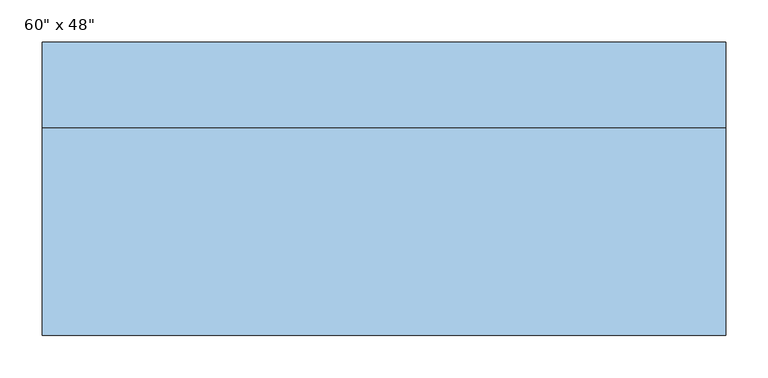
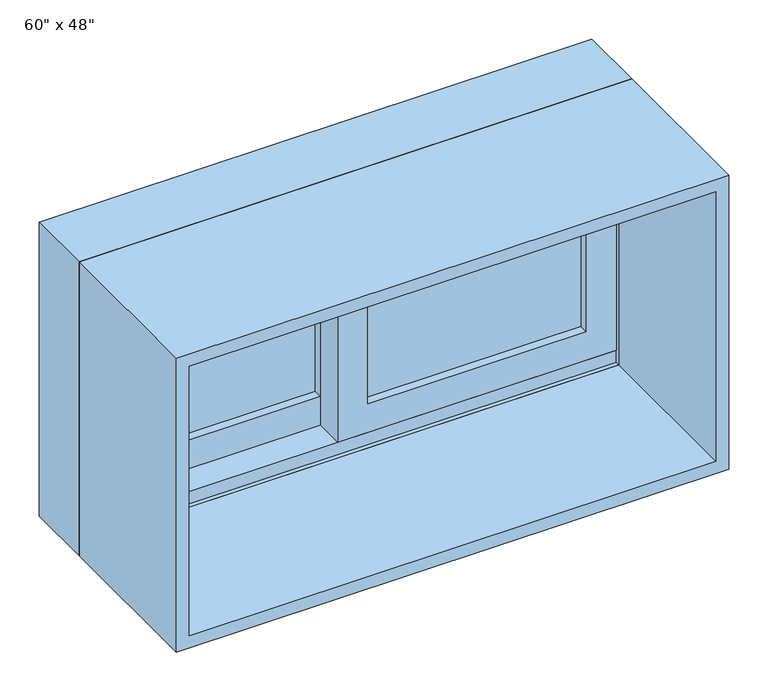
"""IFC4 building model written with IfcOpenShell, lengths in millimetres: window geometry."""

import ifcopenshell
import ifcopenshell.guid

model = None  # the IFC model being written
_history = None  # IfcOwnerHistory: only IFC2X3 demands one
_inside = {}  # id of a spatial element -> (the spatial element, [elements in it])
_under = {}  # id of a project, library or spatial element -> (it, [spatial elements below it])
_declared = {}  # id of a project -> (the project, [libraries it declares])
_typed = {}  # id of a type object -> (the type object, [elements of that type])
_made_of = {}  # id of a material, layer set ... -> (it, [elements and type objects made of it])


def new_model(schema):
    """Start an empty IFC model of exactly this schema.

    Asked for "IFC4X3", IfcOpenShell would pick the latest addendum, in which some entities
    have other attributes; the version numbers below select the first issue.
    IFC2X3 requires an IfcOwnerHistory on every rooted entity: one is made here for all.
    """
    global model, _history
    if schema == "IFC4X3":
        model = ifcopenshell.file(schema_version=(4, 3, 0, 0))
    else:
        model = ifcopenshell.file(schema=schema)
    _inside.clear()
    _under.clear()
    _declared.clear()
    _typed.clear()
    _made_of.clear()
    _history = None
    if model.schema == "IFC2X3":
        org = make("IfcOrganization", Name="unknown")
        user = make(
            "IfcPersonAndOrganization",
            ThePerson=make("IfcPerson", FamilyName="unknown"),
            TheOrganization=org,
        )
        app = make(
            "IfcApplication",
            ApplicationDeveloper=org,
            Version="unknown",
            ApplicationFullName="unknown",
            ApplicationIdentifier="unknown",
        )
        _history = make(
            "IfcOwnerHistory",
            OwningUser=user,
            OwningApplication=app,
            ChangeAction="ADDED",
            CreationDate=0,
        )
    return model


def make(cls, **values):
    """One entity of the class cls with the attributes given. An attribute that is None is left unset."""
    return model.create_entity(
        cls, **{name: value for name, value in values.items() if value is not None}
    )


def rooted(cls, **values):
    """An entity with a GlobalId (a new one), such as an element, a storey or a relation."""
    return make(cls, GlobalId=ifcopenshell.guid.new(), OwnerHistory=_history, **values)


def si_unit(unit_type, name, prefix=None):
    """IfcSIUnit, for example si_unit("LENGTHUNIT", "METRE", prefix="MILLI")."""
    return make("IfcSIUnit", UnitType=unit_type, Prefix=prefix, Name=name)


def assignment(units):
    """IfcUnitAssignment: the units of a project."""
    return None if units is None else make("IfcUnitAssignment", Units=units)


def point(xyz):
    """IfcCartesianPoint."""
    return None if xyz is None else make("IfcCartesianPoint", Coordinates=xyz)


def direction(xyz):
    """IfcDirection."""
    return None if xyz is None else make("IfcDirection", DirectionRatios=xyz)


def frame(location, z_axis=None, x_axis=None):
    """IfcAxis2Placement3D, a coordinate frame: its origin and axes. An axis left out is left unset."""
    return make(
        "IfcAxis2Placement3D",
        Location=point(location),
        Axis=direction(z_axis),
        RefDirection=direction(x_axis),
    )


def origin():
    """The frame at (0, 0, 0) with its axes left unset."""
    return frame((0.0, 0.0, 0.0))


def place(relative_to, where):
    """IfcLocalPlacement: puts the frame where relative to a parent placement (None: the world)."""
    return make(
        "IfcLocalPlacement", PlacementRelTo=relative_to, RelativePlacement=where
    )


def context(
    kind, dimensions, precision=None, world=None, true_north=None, identifier=None
):
    """IfcGeometricRepresentationContext, for example the 3D "Model" context."""
    return make(
        "IfcGeometricRepresentationContext",
        ContextIdentifier=identifier,
        ContextType=kind,
        CoordinateSpaceDimension=dimensions,
        Precision=precision,
        WorldCoordinateSystem=world,
        TrueNorth=true_north,
    )


def project(units=None, contexts=None):
    """IfcProject with its units and contexts."""
    return rooted(
        "IfcProject",
        Name="project",
        RepresentationContexts=contexts,
        UnitsInContext=assignment(units),
    )


def spatial(cls, under=None, at=None, **own):
    """A site, building, storey or space (cls), placed at a placement, below another one or the project."""
    s = rooted(cls, ObjectPlacement=at, **own)
    if under is not None:
        _under.setdefault(under.id(), (under, []))[1].append(s)
    return s


def polyline(points):
    """IfcPolyline through the points."""
    return make("IfcPolyline", Points=[point(p) for p in points])


def outline(outer, holes=None, kind="AREA"):
    """IfcArbitraryClosedProfileDef: a profile drawn as a closed curve; with holes, ...WithVoids."""
    if holes is None:
        return make("IfcArbitraryClosedProfileDef", ProfileType=kind, OuterCurve=outer)
    return make(
        "IfcArbitraryProfileDefWithVoids",
        ProfileType=kind,
        OuterCurve=outer,
        InnerCurves=holes,
    )


def extrude(swept, where, along, depth):
    """IfcExtrudedAreaSolid: the profile swept, set in the frame where, extruded along a direction by depth."""
    return make(
        "IfcExtrudedAreaSolid",
        SweptArea=swept,
        Position=where,
        ExtrudedDirection=direction(along),
        Depth=depth,
    )


def faces_of(points, faces, orient=None, outer=None):
    """IfcFace entities. A face is a list of loops; a loop is a list of indices into points, from 0.

    orient and outer hold one flag for each loop. By default every Orientation is true, the
    first loop of a face is its IfcFaceOuterBound and the others are IfcFaceBound.
    """
    made = []
    for i, loops in enumerate(faces):
        bounds = []
        for j, loop in enumerate(loops):
            is_outer = j == 0 if outer is None else outer[i][j]
            bounds.append(
                make(
                    "IfcFaceOuterBound" if is_outer else "IfcFaceBound",
                    Bound=make("IfcPolyLoop", Polygon=[points[k] for k in loop]),
                    Orientation=True if orient is None else orient[i][j],
                )
            )
        made.append(make("IfcFace", Bounds=bounds))
    return made


def faceted_brep(points, faces, orient=None, outer=None, voids=None):
    """IfcFacetedBrep: a solid bounded by flat faces; with voids (closed shells), ...WithVoids."""
    shared = [point(p) for p in points]
    hull = make("IfcClosedShell", CfsFaces=faces_of(shared, faces, orient, outer))
    if voids is None:
        return make("IfcFacetedBrep", Outer=hull)
    return make(
        "IfcFacetedBrepWithVoids",
        Outer=hull,
        Voids=[
            make(cls, CfsFaces=faces_of(shared, fs, o, b)) for cls, fs, o, b in voids
        ],
    )


def shape(context_of_items, identifier, shape_type, items):
    """IfcShapeRepresentation: the items that make up one representation, for example the "Body"."""
    return make(
        "IfcShapeRepresentation",
        ContextOfItems=context_of_items,
        RepresentationIdentifier=identifier,
        RepresentationType=shape_type,
        Items=items,
    )


def source(mapping_origin, context_of_items, identifier, shape_type, items):
    """IfcRepresentationMap: a shape defined once, which mapped items show again and again."""
    return make(
        "IfcRepresentationMap",
        MappingOrigin=mapping_origin,
        MappedRepresentation=shape(context_of_items, identifier, shape_type, items),
    )


def transform(
    local_origin,
    x_axis=None,
    y_axis=None,
    z_axis=None,
    scale=None,
    scale2=None,
    scale3=None,
    uniform=True,
):
    """IfcCartesianTransformationOperator3D, or its non-uniform kind. x_axis, y_axis, z_axis: its Axis1, 2, 3."""
    if uniform:
        return make(
            "IfcCartesianTransformationOperator3D",
            Axis1=direction(x_axis),
            Axis2=direction(y_axis),
            LocalOrigin=point(local_origin),
            Scale=scale,
            Axis3=direction(z_axis),
        )
    return make(
        "IfcCartesianTransformationOperator3DnonUniform",
        Axis1=direction(x_axis),
        Axis2=direction(y_axis),
        LocalOrigin=point(local_origin),
        Scale=scale,
        Axis3=direction(z_axis),
        Scale2=scale2,
        Scale3=scale3,
    )


def mapped(mapping_source, mapping_target):
    """IfcMappedItem: shows the shape of a source again, moved by a transform."""
    return make(
        "IfcMappedItem", MappingSource=mapping_source, MappingTarget=mapping_target
    )


def made_of(thing, what):
    """Note that an element or type object is made of a material, layer set ...; save() writes the relation."""
    if what is not None:
        _made_of.setdefault(what.id(), (what, []))[1].append(thing)
    return thing


def element(
    cls,
    number,
    at=None,
    inside=None,
    cuts=None,
    type_object=None,
    material=None,
    context=None,
    identifier="Body",
    shape_type=None,
    held_by="IfcProductDefinitionShape",
    body=None,
    shapes=None,
    **own,
):
    """One element of the class cls, such as IfcWall. Its Tag is "e" and its number.

    at: its placement. inside: the storey or other place that contains it. cuts: it is an
    opening in that element (IfcRelVoidsElement). A single representation is given by context,
    identifier, shape_type and body (its items); several are given by shapes. held_by: the class
    of the entity that holds the representations. save() writes the other relations.
    """
    e = rooted(cls, Tag="e%d" % number, ObjectPlacement=at, **own)
    if body is not None:
        shapes = [shape(context, identifier, shape_type, body)]
    if shapes is not None:
        e.Representation = make(held_by, Representations=shapes)
    if inside is not None:
        _inside.setdefault(inside.id(), (inside, []))[1].append(e)
    if cuts is not None:
        rooted(
            "IfcRelVoidsElement", RelatingBuildingElement=cuts, RelatedOpeningElement=e
        )
    if type_object is not None:
        _typed.setdefault(type_object.id(), (type_object, []))[1].append(e)
    return made_of(e, material)


def aggregate(whole, parts):
    """IfcRelAggregates: a whole, such as a stair, and the parts it consists of."""
    return rooted("IfcRelAggregates", RelatingObject=whole, RelatedObjects=parts)


def save(model, path):
    """Write the relations noted so far, then the file.

    IfcRelAggregates (storeys below a building ...), IfcRelContainedInSpatialStructure (elements
    in a storey), IfcRelDefinesByType, IfcRelAssociatesMaterial and IfcRelDeclares: one each for
    every whole, place, type object, material and project.
    """
    for whole, parts in _under.values():
        aggregate(whole, parts)
    for where, things in _inside.values():
        rooted(
            "IfcRelContainedInSpatialStructure",
            RelatedElements=things,
            RelatingStructure=where,
        )
    for kind, things in _typed.values():
        rooted("IfcRelDefinesByType", RelatedObjects=things, RelatingType=kind)
    for what, things in _made_of.values():
        rooted("IfcRelAssociatesMaterial", RelatedObjects=things, RelatingMaterial=what)
    for by, libraries in _declared.values():
        rooted("IfcRelDeclares", RelatingContext=by, RelatedDefinitions=libraries)
    model.write(path)


def window_6e3eade2(model_context):
    return source(origin(), model_context, "Body", "SolidModel", [
        extrude(outline(polyline([(933.45, -387.35), (933.45, 22.225), (1352.55, 22.225), (1352.55, -387.35), (933.45, -387.35)]), holes=[polyline([(1308.1, -22.225), (996.95, -22.225), (996.95, -342.9), (1308.1, -342.9), (1308.1, -22.225)])]), frame((0.0, 129.54, 0.0), z_axis=(0.0, 1.0, 0.0), x_axis=(0.0, 0.0, 1.0)), (0.0, 0.0, 1.0), 44.45),
        extrude(outline(polyline([(952.5, 387.35), (1352.55, 387.35), (1352.55, -22.225), (952.5, -22.225), (952.5, 387.35)]), holes=[polyline([(996.95, 22.225), (1308.1, 22.225), (1308.1, 342.9), (996.95, 342.9), (996.95, 22.225)])]), frame((0.0, 85.09, 0.0), z_axis=(0.0, 1.0, 0.0), x_axis=(0.0, 0.0, 1.0)), (0.0, 0.0, 1.0), 44.45),
        faceted_brep([(-406.4, 78.74, 914.4), (-406.4, 180.34, 914.4), (406.4, 180.34, 914.4), (406.4, 78.74, 914.4), (-365.4778905, 180.34, 1330.6778905), (-365.4778905, 173.99, 1330.6778905), (-365.4778905, 173.99, 933.45), (-365.4778905, 180.34, 933.45), (365.4778905, 173.99, 1330.6778905), (365.4778905, 173.99, 933.45), (387.35, 173.99, 933.45), (387.35, 173.99, 1352.55), (-387.35, 173.99, 1352.55), (-387.35, 173.99, 933.45), (-387.35, 78.74, 1352.55), (-387.35, 78.74, 933.45), (-387.35, 85.09, 933.45), (-387.35, 85.09, 952.5), (-387.35, 129.54, 952.5), (-387.35, 129.54, 933.45), (406.4, 78.74, 1371.6), (-406.4, 78.74, 1371.6), (387.35, 78.74, 1352.55), (387.35, 78.74, 933.45), (-406.4, 180.34, 1371.6), (406.4, 180.34, 1371.6), (365.4778905, 180.34, 933.45), (365.4778905, 180.34, 1330.6778905), (387.35, 129.54, 933.45), (387.35, 129.54, 952.5), (387.35, 85.09, 952.5), (387.35, 85.09, 933.45)], [[[0, 1, 2, 3]], [[4, 5, 6, 7]], [[5, 8, 9, 10, 11, 12, 13, 6]], [[12, 14, 15, 16, 17, 18, 19, 13]], [[0, 3, 20, 21], [22, 23, 15, 14]], [[24, 1, 0, 21]], [[2, 1, 24, 25], [4, 7, 26, 27]], [[5, 4, 27, 8]], [[12, 11, 22, 14]], [[21, 20, 25, 24]], [[8, 27, 26, 9]], [[22, 11, 10, 28, 29, 30, 31, 23]], [[20, 3, 2, 25]], [[26, 7, 6, 13, 19, 28, 10, 9]], [[28, 19, 18, 29]], [[29, 18, 17, 30]], [[30, 17, 16, 31]], [[15, 23, 31, 16]]]),
        extrude(outline(polyline([(1371.6, -406.4), (914.4, -406.4), (914.4, 406.4), (1371.6, 406.4), (1371.6, -406.4)]), holes=[polyline([(1352.55, 387.35), (933.45, 387.35), (933.45, -387.35), (1352.55, -387.35), (1352.55, 387.35)])]), frame((0.0, -168.91, 0.0), z_axis=(0.0, 1.0, 0.0), x_axis=(0.0, 0.0, 1.0)), (0.0, 0.0, 1.0), 247.65),
        extrude(outline(polyline([(342.9, 116.84), (342.9, 110.49), (22.225, 110.49), (22.225, 116.84), (342.9, 116.84)])), frame((0.0, 0.0, 996.95), z_axis=(0.0, 0.0, 1.0), x_axis=(1.0, 0.0, 0.0)), (0.0, 0.0, 1.0), 311.15),
        extrude(outline(polyline([(342.9, 104.14), (342.9, 97.79), (22.225, 97.79), (22.225, 104.14), (342.9, 104.14)])), frame((0.0, 0.0, 996.95), z_axis=(0.0, 0.0, 1.0), x_axis=(1.0, 0.0, 0.0)), (0.0, 0.0, 1.0), 311.15),
        extrude(outline(polyline([(-22.225, 161.29), (-22.225, 154.94), (-342.9, 154.94), (-342.9, 161.29), (-22.225, 161.29)])), frame((0.0, 0.0, 996.95), z_axis=(0.0, 0.0, 1.0), x_axis=(1.0, 0.0, 0.0)), (0.0, 0.0, 1.0), 311.15),
        extrude(outline(polyline([(-22.225, 148.59), (-22.225, 142.24), (-342.9, 142.24), (-342.9, 148.59), (-22.225, 148.59)])), frame((0.0, 0.0, 996.95), z_axis=(0.0, 0.0, 1.0), x_axis=(1.0, 0.0, 0.0)), (0.0, 0.0, 1.0), 311.15),
    ])


if __name__ == "__main__":
    model = new_model("IFC4")
    model_context = context("Model", 3, world=origin())
    ifc_project = project(units=[si_unit("LENGTHUNIT", "METRE", prefix="MILLI")], contexts=[model_context])
    site = spatial("IfcSite", under=ifc_project)
    building = spatial("IfcBuilding", under=site)
    placement = place(None, origin())
    window_shape = window_6e3eade2(model_context)
    element("IfcWindow", 1, ObjectType="Planitar-Sliding-Double : 60\" x 48\"", at=placement, inside=building, context=model_context, shape_type="MappedRepresentation", body=[
        mapped(window_shape, transform((0.0, 0.0, 0.0), x_axis=(1.0, 0.0, 0.0), y_axis=(0.0, 1.0, 0.0), z_axis=(0.0, 0.0, 1.0))),
    ])
    save(model, "model.ifc")
